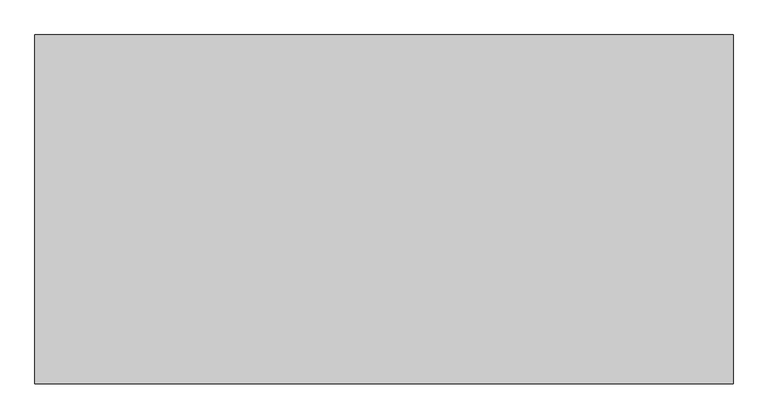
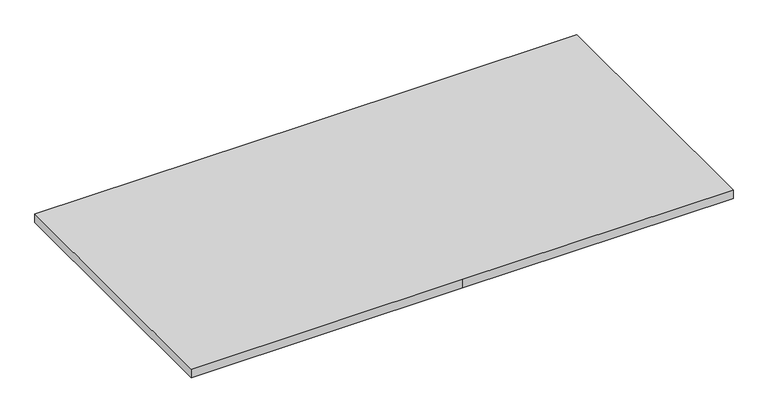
"""IFC4 building model written with IfcOpenShell, lengths in millimetres: valve geometry, Pipelife - Stormbox - Dno skrzynki : Dno skrzynki."""

from ifc_helpers import new_model, si_unit, origin, origin_with_axes, place, context, project, spatial, polyline, outline, extrude, source, transform, mapped, element, save


def valve_804a3bdb(model_context):
    return source(origin(), model_context, "Body", "SweptSolid", [
        extrude(outline(polyline([(601.0, -300.5), (0.0, -300.5), (-601.0, -300.5), (-601.0, 300.5), (0.0, 300.5), (601.0, 300.5), (601.0, -300.5)])), origin_with_axes(), (0.0, 0.0, 1.0), 19.7),
    ])


if __name__ == "__main__":
    model = new_model("IFC4")
    model_context = context("Model", 3, world=origin())
    ifc_project = project(units=[si_unit("LENGTHUNIT", "METRE", prefix="MILLI")], contexts=[model_context])
    site = spatial("IfcSite", under=ifc_project)
    building = spatial("IfcBuilding", under=site)
    placement = place(None, origin())
    valve_shape = valve_804a3bdb(model_context)
    element("IfcValve", 1, ObjectType="Pipelife - Stormbox - Dno skrzynki : Dno skrzynki", at=placement, inside=building, context=model_context, shape_type="MappedRepresentation", body=[
        mapped(valve_shape, transform((0.0, 0.0, 0.0), x_axis=(1.0, 0.0, 0.0), y_axis=(0.0, 1.0, 0.0), z_axis=(0.0, 0.0, 1.0))),
    ])
    save(model, "model.ifc")
